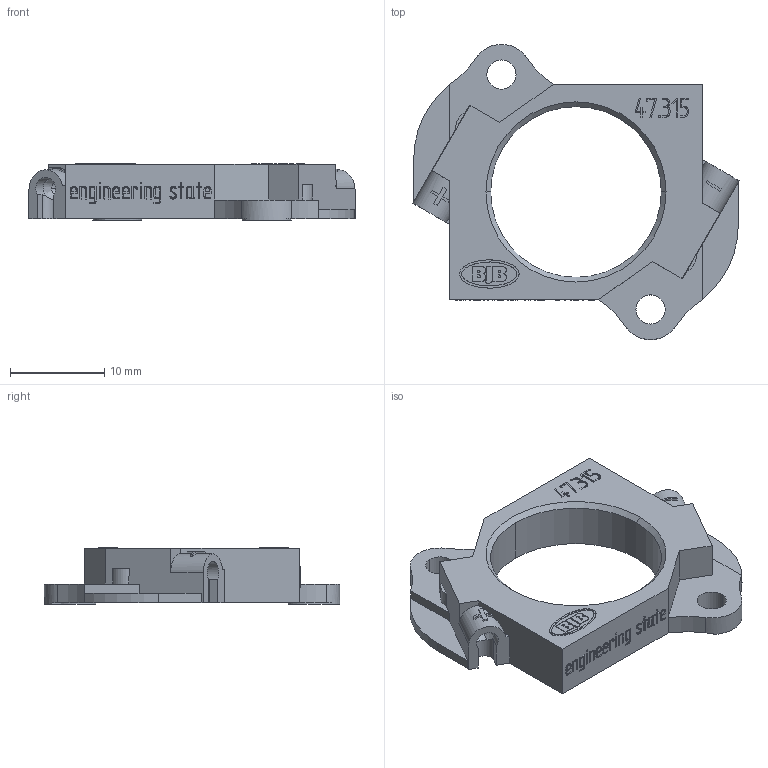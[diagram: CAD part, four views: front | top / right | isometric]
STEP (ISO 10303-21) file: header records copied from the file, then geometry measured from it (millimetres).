
FILE_DESCRIPTION((' '),'1');
FILE_NAME('01M-Q08-0J.stp','2011-11-22 T07:47:28',(''),(''),'STEP Interface 2011 Sp1 by CT CoreTechnologie','3D_Evolution2011 Sp1 by CT CoreTechnologie','');
FILE_SCHEMA(('AP203_CONFIGURATION_CONTROLLED_3D_DESIGN_OF_MECHANICAL_PARTS_AND_ASSEMBLIES_MIM_LF'));
Length unit declared in the file: millimetre
Products named in the file (1): 01M-Q08-0J
Bounding box: 34.66 x 31.31 x 6 mm (x, y, z)
Volume: 1491.8 mm3; surface area: 2400.9 mm2
Topology: 1 solids, 1 shells, 402 faces, 1060 edges, 704 vertices
Faces by surface type: plane 286, bspline 63, cylinder 53
Entity records: 17995 total; most frequent: CARTESIAN_POINT 4658, ORIENTED_EDGE 2120, DIRECTION 1770, EDGE_CURVE 1060, VECTOR 806, LINE 806, VERTEX_POINT 704, AXIS2_PLACEMENT_3D 482
